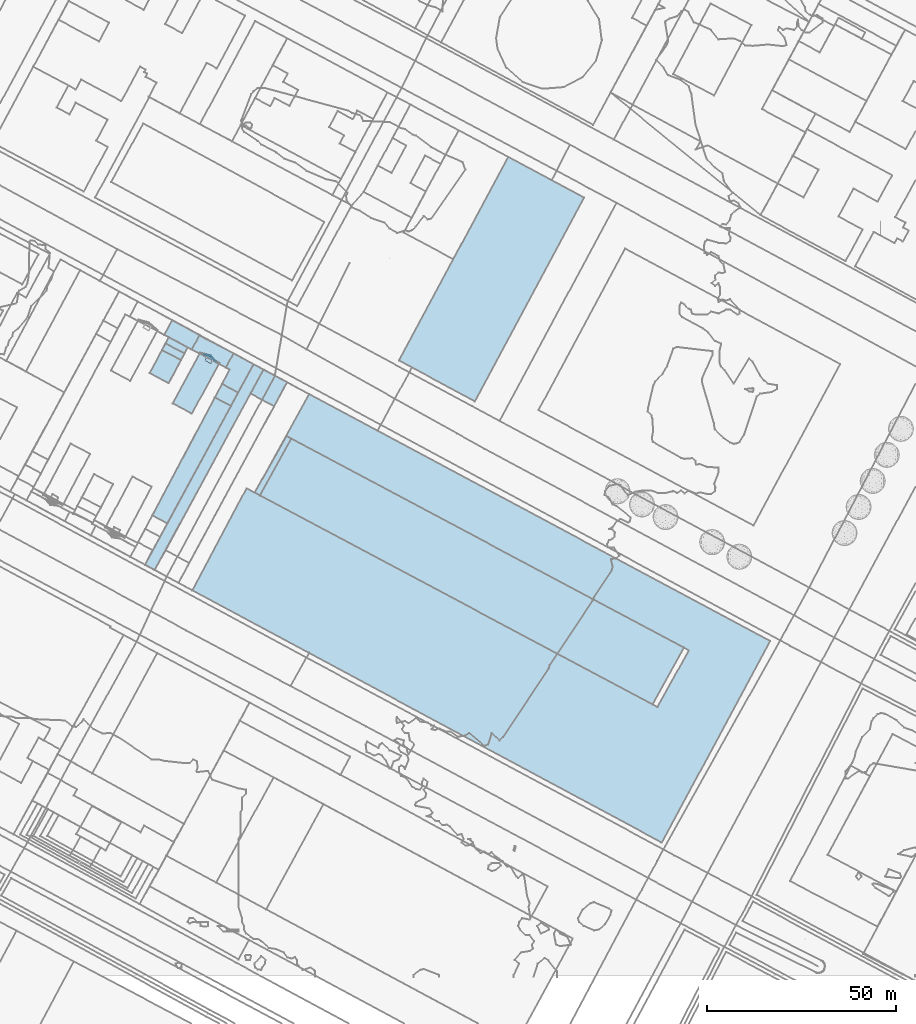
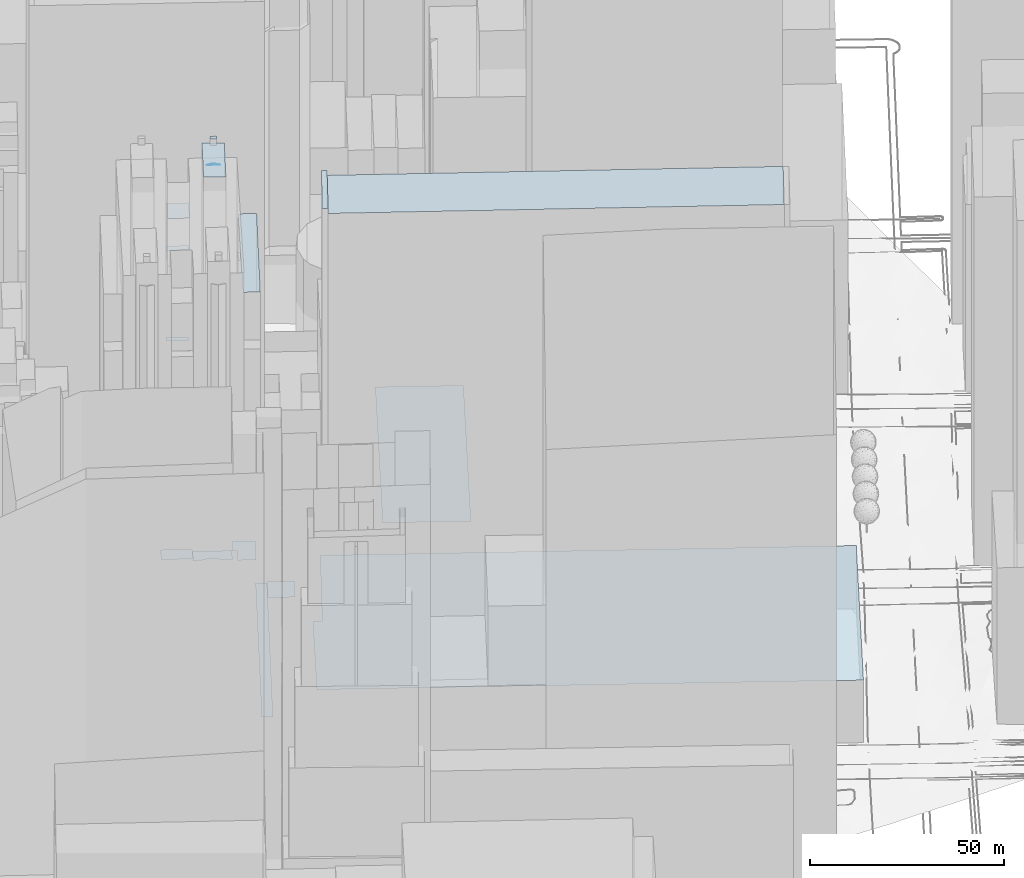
# Not in any storey, part 39 of 80: 17 roofs.
"""IFC4 building model written with IfcOpenShell, lengths in metres."""

import ifcopenshell
import ifcopenshell.guid

model = None  # the IFC model being written
_history = None  # IfcOwnerHistory: only IFC2X3 demands one
_inside = {}  # id of a spatial element -> (the spatial element, [elements in it])
_under = {}  # id of a project, library or spatial element -> (it, [spatial elements below it])
_declared = {}  # id of a project -> (the project, [libraries it declares])
_typed = {}  # id of a type object -> (the type object, [elements of that type])
_made_of = {}  # id of a material, layer set ... -> (it, [elements and type objects made of it])


def new_model(schema):
    """Start an empty IFC model of exactly this schema.

    Asked for "IFC4X3", IfcOpenShell would pick the latest addendum, in which some entities
    have other attributes; the version numbers below select the first issue.
    IFC2X3 requires an IfcOwnerHistory on every rooted entity: one is made here for all.
    """
    global model, _history
    if schema == "IFC4X3":
        model = ifcopenshell.file(schema_version=(4, 3, 0, 0))
    else:
        model = ifcopenshell.file(schema=schema)
    _inside.clear()
    _under.clear()
    _declared.clear()
    _typed.clear()
    _made_of.clear()
    _history = None
    if model.schema == "IFC2X3":
        org = make("IfcOrganization", Name="unknown")
        user = make(
            "IfcPersonAndOrganization",
            ThePerson=make("IfcPerson", FamilyName="unknown"),
            TheOrganization=org,
        )
        app = make(
            "IfcApplication",
            ApplicationDeveloper=org,
            Version="unknown",
            ApplicationFullName="unknown",
            ApplicationIdentifier="unknown",
        )
        _history = make(
            "IfcOwnerHistory",
            OwningUser=user,
            OwningApplication=app,
            ChangeAction="ADDED",
            CreationDate=0,
        )
    return model


def make(cls, **values):
    """One entity of the class cls with the attributes given. An attribute that is None is left unset."""
    return model.create_entity(
        cls, **{name: value for name, value in values.items() if value is not None}
    )


def rooted(cls, **values):
    """An entity with a GlobalId (a new one), such as an element, a storey or a relation."""
    return make(cls, GlobalId=ifcopenshell.guid.new(), OwnerHistory=_history, **values)


def si_unit(unit_type, name, prefix=None):
    """IfcSIUnit, for example si_unit("LENGTHUNIT", "METRE", prefix="MILLI")."""
    return make("IfcSIUnit", UnitType=unit_type, Prefix=prefix, Name=name)


def assignment(units):
    """IfcUnitAssignment: the units of a project."""
    return None if units is None else make("IfcUnitAssignment", Units=units)


def point(xyz):
    """IfcCartesianPoint."""
    return None if xyz is None else make("IfcCartesianPoint", Coordinates=xyz)


def direction(xyz):
    """IfcDirection."""
    return None if xyz is None else make("IfcDirection", DirectionRatios=xyz)


def frame(location, z_axis=None, x_axis=None):
    """IfcAxis2Placement3D, a coordinate frame: its origin and axes. An axis left out is left unset."""
    return make(
        "IfcAxis2Placement3D",
        Location=point(location),
        Axis=direction(z_axis),
        RefDirection=direction(x_axis),
    )


def origin_with_axes():
    """The frame at (0, 0, 0) with the z axis (0, 0, 1) and the x axis (1, 0, 0) written out."""
    return frame((0.0, 0.0, 0.0), z_axis=(0.0, 0.0, 1.0), x_axis=(1.0, 0.0, 0.0))


def place(relative_to, where):
    """IfcLocalPlacement: puts the frame where relative to a parent placement (None: the world)."""
    return make(
        "IfcLocalPlacement", PlacementRelTo=relative_to, RelativePlacement=where
    )


def context(
    kind, dimensions, precision=None, world=None, true_north=None, identifier=None
):
    """IfcGeometricRepresentationContext, for example the 3D "Model" context."""
    return make(
        "IfcGeometricRepresentationContext",
        ContextIdentifier=identifier,
        ContextType=kind,
        CoordinateSpaceDimension=dimensions,
        Precision=precision,
        WorldCoordinateSystem=world,
        TrueNorth=true_north,
    )


def subcontext(parent, identifier, kind, view, scale=None):
    """IfcGeometricRepresentationSubContext, for example "Body" below "Model"."""
    return make(
        "IfcGeometricRepresentationSubContext",
        ContextIdentifier=identifier,
        ContextType=kind,
        ParentContext=parent,
        TargetScale=scale,
        TargetView=view,
    )


def project(units=None, contexts=None):
    """IfcProject with its units and contexts."""
    return rooted(
        "IfcProject",
        Name="project",
        RepresentationContexts=contexts,
        UnitsInContext=assignment(units),
    )


def spatial(cls, under=None, at=None, **own):
    """A site, building, storey or space (cls), placed at a placement, below another one or the project."""
    s = rooted(cls, ObjectPlacement=at, **own)
    if under is not None:
        _under.setdefault(under.id(), (under, []))[1].append(s)
    return s


def point_list(points):
    """IfcCartesianPointList2D or 3D."""
    cls = (
        "IfcCartesianPointList2D" if len(points[0]) == 2 else "IfcCartesianPointList3D"
    )
    return make(cls, CoordList=points)


def polygons(points, faces, closed=None, point_numbers=None):
    """IfcPolygonalFaceSet: a face is its outer loop, then its inner loops; points numbered from 1."""
    made = []
    for loops in faces:
        if len(loops) == 1:
            made.append(make("IfcIndexedPolygonalFace", CoordIndex=loops[0]))
        else:
            made.append(
                make(
                    "IfcIndexedPolygonalFaceWithVoids",
                    CoordIndex=loops[0],
                    InnerCoordIndices=loops[1:],
                )
            )
    return make(
        "IfcPolygonalFaceSet",
        Coordinates=point_list(points),
        Closed=closed,
        Faces=made,
        PnIndex=point_numbers,
    )


def shape(context_of_items, identifier, shape_type, items):
    """IfcShapeRepresentation: the items that make up one representation, for example the "Body"."""
    return make(
        "IfcShapeRepresentation",
        ContextOfItems=context_of_items,
        RepresentationIdentifier=identifier,
        RepresentationType=shape_type,
        Items=items,
    )


def made_of(thing, what):
    """Note that an element or type object is made of a material, layer set ...; save() writes the relation."""
    if what is not None:
        _made_of.setdefault(what.id(), (what, []))[1].append(thing)
    return thing


def element(
    cls,
    number,
    at=None,
    inside=None,
    cuts=None,
    type_object=None,
    material=None,
    context=None,
    identifier="Body",
    shape_type=None,
    held_by="IfcProductDefinitionShape",
    body=None,
    shapes=None,
    **own,
):
    """One element of the class cls, such as IfcWall. Its Tag is "e" and its number.

    at: its placement. inside: the storey or other place that contains it. cuts: it is an
    opening in that element (IfcRelVoidsElement). A single representation is given by context,
    identifier, shape_type and body (its items); several are given by shapes. held_by: the class
    of the entity that holds the representations. save() writes the other relations.
    """
    e = rooted(cls, Tag="e%d" % number, ObjectPlacement=at, **own)
    if body is not None:
        shapes = [shape(context, identifier, shape_type, body)]
    if shapes is not None:
        e.Representation = make(held_by, Representations=shapes)
    if inside is not None:
        _inside.setdefault(inside.id(), (inside, []))[1].append(e)
    if cuts is not None:
        rooted(
            "IfcRelVoidsElement", RelatingBuildingElement=cuts, RelatedOpeningElement=e
        )
    if type_object is not None:
        _typed.setdefault(type_object.id(), (type_object, []))[1].append(e)
    return made_of(e, material)


def aggregate(whole, parts):
    """IfcRelAggregates: a whole, such as a stair, and the parts it consists of."""
    return rooted("IfcRelAggregates", RelatingObject=whole, RelatedObjects=parts)


def save(model, path):
    """Write the relations noted so far, then the file.

    IfcRelAggregates (storeys below a building ...), IfcRelContainedInSpatialStructure (elements
    in a storey), IfcRelDefinesByType, IfcRelAssociatesMaterial and IfcRelDeclares: one each for
    every whole, place, type object, material and project.
    """
    for whole, parts in _under.values():
        aggregate(whole, parts)
    for where, things in _inside.values():
        rooted(
            "IfcRelContainedInSpatialStructure",
            RelatedElements=things,
            RelatingStructure=where,
        )
    for kind, things in _typed.values():
        rooted("IfcRelDefinesByType", RelatedObjects=things, RelatingType=kind)
    for what, things in _made_of.values():
        rooted("IfcRelAssociatesMaterial", RelatedObjects=things, RelatingMaterial=what)
    for by, libraries in _declared.values():
        rooted("IfcRelDeclares", RelatingContext=by, RelatedDefinitions=libraries)
    model.write(path)


model = new_model("IFC4")

# Units and contexts
model_context = context("Model", 3, precision=1e-05, world=origin_with_axes())
body_context = subcontext(model_context, "Body", "Model", "MODEL_VIEW")
ifc_project = project(units=[si_unit("AREAUNIT", "SQUARE_METRE"), si_unit("LENGTHUNIT", "METRE")], contexts=[model_context])

# Sites, building
site_1_placement = place(None, origin_with_axes())
site_1 = spatial("IfcSite", under=ifc_project, at=site_1_placement, Name="Topoexport Site")
site_2_placement = place(site_1_placement, origin_with_axes())
site_2 = spatial("IfcSite", under=site_1, at=site_2_placement, Name="TPX_BATIMENTS")
building_1_placement = place(site_2_placement, frame((145.8163168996, 126.9152581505, 39.4739662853), z_axis=(0.0, 0.0, 1.0), x_axis=(1.0, 0.0, 0.0)))
building_1 = spatial("IfcBuilding", under=site_2, at=building_1_placement, Name="Batiment 37", CompositionType="ELEMENT")

# Roof
roof_1_placement = place(None, frame((145.8163168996, 126.9152581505, 39.4739662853), z_axis=(0.0, 0.0, 1.0), x_axis=(1.0, 0.0, 0.0)))
element("IfcRoof", 1, at=roof_1_placement, inside=building_1, Name="Toiture 0", context=body_context, shape_type="Tessellation", body=[
    polygons([(0.0, 0.0, 128.0), (103.867286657, -55.3249895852, 128.0), (112.1849689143, -40.3178861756, 128.0), (8.3262633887, 15.0070838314, 128.0)], [[[4, 1, 2]], [[2, 3, 4]]]),
])

# Building
building_2_placement = place(site_2_placement, frame((127.9503385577, 101.7942196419, 19.0609188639), z_axis=(0.0, 0.0, 1.0), x_axis=(1.0, 0.0, 0.0)))
building_2 = spatial("IfcBuilding", under=site_2, at=building_2_placement, Name="Batiment 38", CompositionType="ELEMENT")

# Roof
roof_2_placement = place(None, frame((127.9503385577, 101.7942196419, 19.0609188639), z_axis=(0.0, 0.0, 1.0), x_axis=(1.0, 0.0, 0.0)))
element("IfcRoof", 2, at=roof_2_placement, inside=building_2, Name="Toiture 0", context=body_context, shape_type="Tessellation", body=[
    polygons([(0.0, 0.0, 20.0), (124.2012870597, -66.7460663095, 20.0), (152.8564476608, -13.4215566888, 20.0), (30.9179421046, 51.8848183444, 20.0), (16.4988125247, 25.8156958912, 20.0), (14.3495804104, 26.9786628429, 20.0)], [[[6, 1, 2]], [[2, 3, 4]], [[5, 6, 2]], [[2, 4, 5]]]),
])

# Building
building_3_placement = place(site_2_placement, frame((182.6039745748, 162.5591833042, 20.6927717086), z_axis=(0.0, 0.0, 1.0), x_axis=(1.0, 0.0, 0.0)))
building_3 = spatial("IfcBuilding", under=site_2, at=building_3_placement, Name="Batiment 42", CompositionType="ELEMENT")

# Roof
roof_3_placement = place(None, frame((182.6039745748, 162.5591833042, 20.6927717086), z_axis=(0.0, 0.0, 1.0), x_axis=(1.0, 0.0, 0.0)))
element("IfcRoof", 3, at=roof_3_placement, inside=building_3, Name="Toiture 0", context=body_context, shape_type="Tessellation", body=[
    polygons([(0.0, 0.0, 14.8999996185), (20.0810169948, -10.7688576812, 14.8999996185), (48.9829273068, 43.1023540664, 14.8999996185), (28.9020091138, 53.8711326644, 14.8999996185)], [[[4, 1, 2]], [[2, 3, 4]]]),
])

# Building
building_4_placement = place(site_2_placement, frame((144.4491510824, 127.6099155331, 41.0408020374), z_axis=(0.0, 0.0, 1.0), x_axis=(1.0, 0.0, 0.0)))
building_4 = spatial("IfcBuilding", under=site_2, at=building_4_placement, Name="Batiment 44", CompositionType="ELEMENT")

# Roof
roof_4_placement = place(None, frame((144.4491510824, 127.6099155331, 41.0408020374), z_axis=(0.0, 0.0, 1.0), x_axis=(1.0, 0.0, 0.0)))
element("IfcRoof", 4, at=roof_4_placement, inside=building_4, Name="Toiture 0", context=body_context, shape_type="Tessellation", body=[
    polygons([(0.0, 0.0, 128.0), (1.3671658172, -0.6946573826, 128.0), (9.6934292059, 14.3124264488, 128.0), (8.4192388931, 14.9970605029, 128.0)], [[[4, 1, 2]], [[2, 3, 4]]]),
])

# Building
building_5_placement = place(site_2_placement, frame((117.3791727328, 121.6110559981, 20.8267398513), z_axis=(0.0, 0.0, 1.0), x_axis=(1.0, 0.0, 0.0)))
building_5 = spatial("IfcBuilding", under=site_2, at=building_5_placement, Name="Batiment 45", CompositionType="ELEMENT")

# Roof
roof_5_placement = place(None, frame((117.3791727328, 121.6110559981, 20.8267398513), z_axis=(0.0, 0.0, 1.0), x_axis=(1.0, 0.0, 0.0)))
element("IfcRoof", 5, at=roof_5_placement, inside=building_5, Name="Toiture 0", context=body_context, shape_type="Tessellation", body=[
    polygons([(0.0, 0.0, 135.0), (3.9330714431, -2.1192496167, 135.0), (20.7848229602, 28.9185921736, 135.0), (16.537532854, 31.2007155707, 135.0)], [[[4, 1, 2]], [[2, 3, 4]]]),
])

# Building
building_6_placement = place(site_2_placement, frame((115.4207049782, 108.532058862, 20.6954997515), z_axis=(0.0, 0.0, 1.0), x_axis=(1.0, 0.0, 0.0)))
building_6 = spatial("IfcBuilding", under=site_2, at=building_6_placement, Name="Batiment 46", CompositionType="ELEMENT")

# Roof
roof_6_placement = place(None, frame((115.4207049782, 108.532058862, 20.6954997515), z_axis=(0.0, 0.0, 1.0), x_axis=(1.0, 0.0, 0.0)))
element("IfcRoof", 6, at=roof_6_placement, inside=building_6, Name="Toiture 0", context=body_context, shape_type="Tessellation", body=[
    polygons([(0.0, 0.0, 10.0), (2.5572123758, -1.4024849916, 10.0), (31.3771339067, 51.6014424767, 10.0), (28.7687753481, 53.0477319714, 10.0)], [[[4, 1, 2]], [[2, 3, 4]]]),
])

# Building
building_7_placement = place(site_2_placement, frame((116.6721914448, 159.2172708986, 141.4782063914), z_axis=(0.0, 0.0, 1.0), x_axis=(1.0, 0.0, 0.0)))
building_7 = spatial("IfcBuilding", under=site_2, at=building_7_placement, Name="Batiment 56", CompositionType="ELEMENT")

# Roof
roof_7_placement = place(None, frame((116.6721914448, 159.2172708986, 141.4782063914), z_axis=(0.0, 0.0, 1.0), x_axis=(1.0, 0.0, 0.0)))
element("IfcRoof", 7, at=roof_7_placement, inside=building_7, Name="Toiture 0", context=body_context, shape_type="Tessellation", body=[
    polygons([(0.0, 0.0, 15.0), (5.0281825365, -2.6505379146, 15.0), (8.2745883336, 3.4712109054, 15.0), (3.2380972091, 6.1105477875, 15.0)], [[[4, 1, 2]], [[2, 3, 4]]]),
])

# Building
building_8_placement = place(site_2_placement, frame((119.9102886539, 165.3278186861, 111.6038647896), z_axis=(0.0, 0.0, 1.0), x_axis=(1.0, 0.0, 0.0)))
building_8 = spatial("IfcBuilding", under=site_2, at=building_8_placement, Name="Batiment 57", CompositionType="ELEMENT")

# Roof
roof_8_placement = place(None, frame((119.9102886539, 165.3278186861, 111.6038647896), z_axis=(0.0, 0.0, 1.0), x_axis=(1.0, 0.0, 0.0)))
element("IfcRoof", 8, at=roof_8_placement, inside=building_8, Name="Toiture 0", context=body_context, shape_type="Tessellation", body=[
    polygons([(0.0, 0.0, 30.0), (5.0364911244, -2.6393368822, 30.0), (5.9698792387, -0.874337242, 30.0), (0.9333889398, 1.7649989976, 30.0)], [[[4, 1, 2]], [[2, 3, 4]]]),
])

# Building
building_9_placement = place(site_2_placement, frame((120.8436775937, 167.0928176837, 21.6386341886), z_axis=(0.0, 0.0, 1.0), x_axis=(1.0, 0.0, 0.0)))
building_9 = spatial("IfcBuilding", under=site_2, at=building_9_placement, Name="Batiment 58", CompositionType="ELEMENT")

# Roof
roof_9_placement = place(None, frame((120.8436775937, 167.0928176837, 21.6386341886), z_axis=(0.0, 0.0, 1.0), x_axis=(1.0, 0.0, 0.0)))
element("IfcRoof", 9, at=roof_9_placement, inside=building_9, Name="Toiture 0", context=body_context, shape_type="Tessellation", body=[
    polygons([(0.0, 0.0, 90.0), (5.0364902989, -2.6393362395, 90.0), (5.8792260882, -1.0641279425, 90.0), (0.8757243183, 1.6422044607, 90.0)], [[[4, 1, 2]], [[2, 3, 4]]]),
])

# Building
building_10_placement = place(site_2_placement, frame((120.5302679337, 169.3651384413, 21.6421787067), z_axis=(0.0, 0.0, 1.0), x_axis=(1.0, 0.0, 0.0)))
building_10 = spatial("IfcBuilding", under=site_2, at=building_10_placement, Name="Batiment 59", CompositionType="ELEMENT")

# Roof
roof_10_placement = place(None, frame((120.5302679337, 169.3651384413, 21.6421787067), z_axis=(0.0, 0.0, 1.0), x_axis=(1.0, 0.0, 0.0)))
element("IfcRoof", 10, at=roof_10_placement, inside=building_10, Name="Toiture 0", context=body_context, shape_type="Tessellation", body=[
    polygons([(0.0, 0.0, 20.0), (7.2712718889, -3.9012342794, 20.0), (9.3368747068, -0.0469587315, 20.0), (2.1162476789, 3.8548618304, 20.0)], [[[4, 1, 2]], [[2, 3, 4]]]),
])

# Building
building_11_placement = place(site_2_placement, frame((127.8015398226, 165.4639041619, 21.0444509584), z_axis=(0.0, 0.0, 1.0), x_axis=(1.0, 0.0, 0.0)))
building_11 = spatial("IfcBuilding", under=site_2, at=building_11_placement, Name="Batiment 60", CompositionType="ELEMENT")

# Roof
roof_11_placement = place(None, frame((127.8015398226, 165.4639041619, 21.0444509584), z_axis=(0.0, 0.0, 1.0), x_axis=(1.0, 0.0, 0.0)))
element("IfcRoof", 11, at=roof_11_placement, inside=building_11, Name="Toiture 0", context=body_context, shape_type="Tessellation", body=[
    polygons([(0.0, 0.0, 20.0), (2.0724819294, -1.0972490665, 20.0), (2.2459900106, -0.7732678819, 20.0), (5.12513906, -1.5502808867, 20.0), (7.1770165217, -3.7801977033, 20.0), (9.0200620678, -4.746883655, 20.0), (11.0616303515, -1.0039073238, 20.0), (2.0078098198, 3.7425815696, 20.0)], [[[8, 1, 2]], [[4, 5, 6]], [[6, 7, 8]], [[8, 2, 3]], [[4, 6, 8]], [[8, 3, 4]]]),
])

# Building
building_12_placement = place(site_2_placement, frame((130.8715359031, 164.2450175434, 41.2941403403), z_axis=(0.0, 0.0, 1.0), x_axis=(1.0, 0.0, 0.0)))
building_12 = spatial("IfcBuilding", under=site_2, at=building_12_placement, Name="Batiment 61", CompositionType="ELEMENT")

# Roof
roof_12_placement = place(None, frame((130.8715359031, 164.2450175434, 41.2941403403), z_axis=(0.0, 0.0, 1.0), x_axis=(1.0, 0.0, 0.0)))
element("IfcRoof", 12, at=roof_12_placement, inside=building_12, Name="Toiture 0", context=body_context, shape_type="Tessellation", body=[
    polygons([(0.0, 0.0, 124.0), (0.9598263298, -0.5106541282, 124.0), (3.4234050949, -1.8476075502, 124.0), (2.0551429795, -0.3313942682, 124.0)], [[[4, 1, 2]], [[2, 3, 4]]]),
])

# Building
building_13_placement = place(site_2_placement, frame((131.2446046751, 162.6506276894, 172.3367242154), z_axis=(0.0, 0.0, 1.0), x_axis=(1.0, 0.0, 0.0)))
building_13 = spatial("IfcBuilding", under=site_2, at=building_13_placement, Name="Batiment 62", CompositionType="ELEMENT")

# Roof
roof_13_placement = place(None, frame((131.2446046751, 162.6506276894, 172.3367242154), z_axis=(0.0, 0.0, 1.0), x_axis=(1.0, 0.0, 0.0)))
element("IfcRoof", 13, at=roof_13_placement, inside=building_13, Name="Toiture 0", context=body_context, shape_type="Tessellation", body=[
    polygons([(0.0, 0.0, 2.0), (1.5290734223, -0.8260055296, 2.0), (2.1158308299, 0.2577303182, 2.0), (0.5867575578, 1.0837357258, 2.0)], [[[4, 1, 2]], [[2, 3, 4]]]),
])

# Building
building_14_placement = place(site_2_placement, frame((122.7499311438, 151.2387428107, 21.2252541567), z_axis=(0.0, 0.0, 1.0), x_axis=(1.0, 0.0, 0.0)))
building_14 = spatial("IfcBuilding", under=site_2, at=building_14_placement, Name="Batiment 63", CompositionType="ELEMENT")

# Roof
roof_14_placement = place(None, frame((122.7499311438, 151.2387428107, 21.2252541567), z_axis=(0.0, 0.0, 1.0), x_axis=(1.0, 0.0, 0.0)))
element("IfcRoof", 14, at=roof_14_placement, inside=building_14, Name="Toiture 0", context=body_context, shape_type="Tessellation", body=[
    polygons([(0.0, 0.0, 151.0), (5.0798643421, -2.738751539, 151.0), (12.3774568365, 10.713146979, 151.0), (7.2975986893, 13.4518934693, 151.0)], [[[4, 1, 2]], [[2, 3, 4]]]),
])

# Building
building_15_placement = place(site_2_placement, frame((133.9167055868, 152.8117715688, 20.9084652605), z_axis=(0.0, 0.0, 1.0), x_axis=(1.0, 0.0, 0.0)))
building_15 = spatial("IfcBuilding", under=site_2, at=building_15_placement, Name="Batiment 64", CompositionType="ELEMENT")

# Roof
roof_15_placement = place(None, frame((133.9167055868, 152.8117715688, 20.9084652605), z_axis=(0.0, 0.0, 1.0), x_axis=(1.0, 0.0, 0.0)))
element("IfcRoof", 15, at=roof_15_placement, inside=building_15, Name="Toiture 0", context=body_context, shape_type="Tessellation", body=[
    polygons([(0.0, 0.0, 120.0), (4.2472901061, -2.2821233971, 120.0), (6.1475666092, 1.270473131, 120.0), (1.8917085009, 3.563598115, 120.0)], [[[4, 1, 2]], [[2, 3, 4]]]),
])

# Building
building_16_placement = place(site_2_placement, frame((135.8084140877, 156.3753696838, 20.9336598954), z_axis=(0.0, 0.0, 1.0), x_axis=(1.0, 0.0, 0.0)))
building_16 = spatial("IfcBuilding", under=site_2, at=building_16_placement, Name="Batiment 65", CompositionType="ELEMENT")

# Roof
roof_16_placement = place(None, frame((135.8084140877, 156.3753696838, 20.9336598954), z_axis=(0.0, 0.0, 1.0), x_axis=(1.0, 0.0, 0.0)))
element("IfcRoof", 16, at=roof_16_placement, inside=building_16, Name="Toiture 0", context=body_context, shape_type="Tessellation", body=[
    polygons([(0.0, 0.0, 23.0), (4.2558581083, -2.293124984, 23.0), (8.3810662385, 5.2044211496, 23.0), (3.0547560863, 8.0846271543, 23.0), (1.0131878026, 4.3416508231, 23.0), (2.0239153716, 3.8093843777, 23.0)], [[[6, 1, 2]], [[2, 3, 4]], [[4, 5, 6]], [[6, 2, 4]]]),
])

# Building
building_17_placement = place(site_2_placement, frame((143.3426323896, 153.8205779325, 29.1035144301), z_axis=(0.0, 0.0, 1.0), x_axis=(1.0, 0.0, 0.0)))
building_17 = spatial("IfcBuilding", under=site_2, at=building_17_placement, Name="Batiment 66", CompositionType="ELEMENT")

# Roof
roof_17_placement = place(None, frame((143.3426323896, 153.8205779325, 29.1035144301), z_axis=(0.0, 0.0, 1.0), x_axis=(1.0, 0.0, 0.0)))
element("IfcRoof", 17, at=roof_17_placement, inside=building_17, Name="Toiture 0", context=body_context, shape_type="Tessellation", body=[
    polygons([(0.0, 0.0, 2.0), (6.235119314, -3.3581409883, 2.0), (9.6477332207, 2.9875971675, 2.0), (3.4552064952, 6.3129234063, 2.0)], [[[4, 1, 2]], [[2, 3, 4]]]),
])

save(model, "model.ifc")
